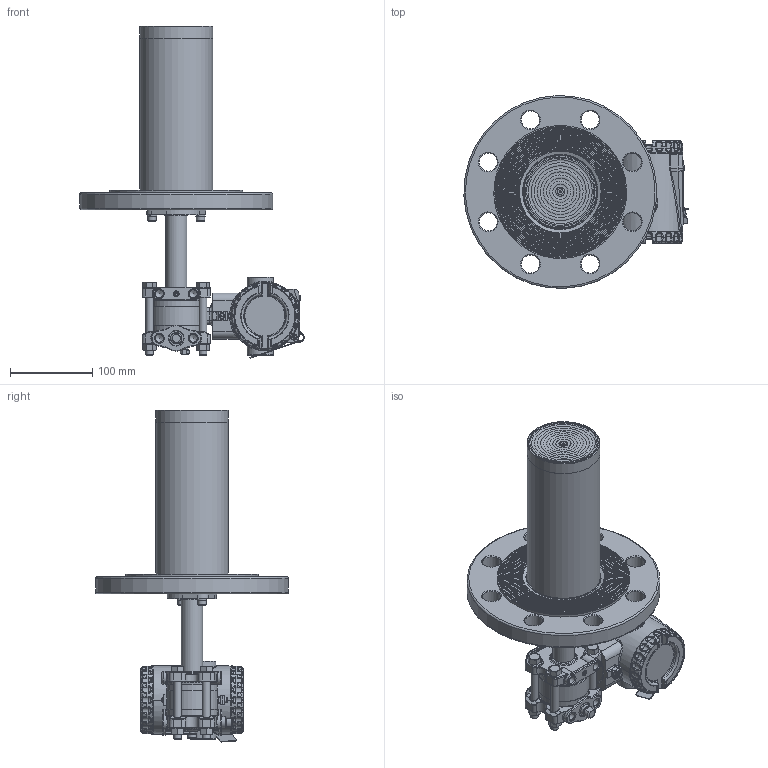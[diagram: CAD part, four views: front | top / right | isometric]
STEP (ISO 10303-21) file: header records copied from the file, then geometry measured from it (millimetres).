
FILE_DESCRIPTION(/* description */ (''),/* implementation_level */ '2;1');
FILE_NAME(/* name */ 'F:\Area\Desenvolvimento_2\Projects\Sensor\projetos\LD400-3d\dimensionais 3D clientes\LD400L\LD400L DN100 PN40 RF ext 200 ref 1-4NPT purga acima.stp',/* time_stamp */ '2023-02-23T17:59:51-03:00',/* author */ ('inventor02'),/* organization */ (''),/* preprocessor_version */ 'ST-DEVELOPER v17',/* originating_system */ 'Autodesk Inventor 2019',/* authorisation */ '');
FILE_SCHEMA (('CONFIG_CONTROL_DESIGN'));
Products named in the file (41): LD30XL DN100 PN40 RF ext 200 ref 1-4NPT purga acima; 204-0301-L-DN100 PN40 RF ext 200 purga acima; nivel fx3 com baixa diferencial 1-4NPT purga acima; involucro fx0-3 apos a usinagem final; flange diferencial std purga; 101-C-7484-01 flange selo nivel VR; 201-A-0504-tubo união teste 1; bujao 1-4NPT; Sangria; Porca 3-8 x 16 UNC; Paraf. 3-8 x 16 UNC; adaptação tubo x flanges 1-1-2 a 4pol; 101-B-0161-anel cortado do tubo - teste1; 101-B-0162-flange fixação tubo; ANSI B18.3.1M - M6x1 x 16; DIN 127 - A 6; flange DN100 PN40 ext 200; 096-B-0212-15; 101-B-7702-02 ext 4-200; 101-C-0143-09; Carcaça 400 com tampas e plaqueta sem letras; 101-D-0845-05 carcaça LD400 sem letras; 101-B-3614-03-tampa 400 sem letras; Tampa visor 400 montada sem letras; 101-B-3612-05 tampa visor 400 sem letras; 101-A-6107; oring 2034; 00034775-0; WHW_250; DIN 915 - M6 x 10; Chapa aterramento externo; 201-A-1771-02 inserto terra recartilhado; AS 1969 - ST4,2; ISO 1207 - M4 x 8; ANSI B18.3.1M - M4x0,7 x 8; Subconjunto plaqueta 400; plaqueta 400 em branco; Parafuso da Plaqueta; Rebite da Plaqueta; 096-A-0169-03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
Assembly tree (50 placements, depth 4):
  LD30XL DN100 PN40 RF ext 200 ref 1-4NPT purga acima
    204-0301-L-DN100 PN40 RF ext 200 purga acima
      nivel fx3 com baixa diferencial 1-4NPT purga acima
        involucro fx0-3 apos a usinagem final
        flange diferencial std purga
        101-C-7484-01 flange selo nivel VR
        201-A-0504-tubo união teste 1
        DIN 915 - M6 x 10
        bujao 1-4NPT
        Sangria
        Porca 3-8 x 16 UNC  x4
        Paraf. 3-8 x 16 UNC  x4
      adaptação tubo x flanges 1-1-2 a 4pol
        101-B-0161-anel cortado do tubo - teste1
        101-B-0162-flange fixação tubo
        ANSI B18.3.1M - M6x1 x 16  x2
        DIN 127 - A 6  x2
      flange DN100 PN40 ext 200
        096-B-0212-15
        101-B-7702-02 ext 4-200
        101-C-0143-09
    Carcaça 400 com tampas e plaqueta sem letras
      101-D-0845-05 carcaça LD400 sem letras
      101-B-3614-03-tampa 400 sem letras
      Tampa visor 400 montada sem letras
        101-B-3612-05 tampa visor 400 sem letras
        101-A-6107
        oring 2034
        00034775-0
        WHW_250
      DIN 915 - M6 x 10
      Chapa aterramento externo
      201-A-1771-02 inserto terra recartilhado
      AS 1969 - ST4,2
      ISO 1207 - M4 x 8
      ANSI B18.3.1M - M4x0,7 x 8  x2
      Subconjunto plaqueta 400
        plaqueta 400 em branco
        Parafuso da Plaqueta
        Rebite da Plaqueta
        096-A-0169-03
        101-A-0502-01
Bounding box: 273.14 x 234.78 x 404.42 mm (x, y, z)
Volume: 1876678.4 mm3; surface area: 485812.6 mm2
Topology: 43 solids, 43 shells, 2837 faces, 6840 edges, 4116 vertices
Faces by surface type: plane 753, cylinder 668, bspline 604, torus 506, cone 230, sphere 76
Full cylindrical faces by diameter (mm): 2 x4, 2.1 x1, 2.2 x1, 2.459 x3, 2.5 x1, 2.7 x1, 2.8 x1, 3 x4, 3.242 x3, 3.5 x1, 3.571 x1, 4 x5, 4.3 x2, 4.4 x1, 4.917 x4, 5 x1, 5.5 x3, 6 x6, 6.1 x2, 6.2 x1, 6.647 x1, 7 x5, 7.6 x2, 7.798 x4, 8 x1, 9.525 x4, 9.728 x6, 10 x2, 10.5 x8, 10.719 x2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
Entity records: 100492 total; most frequent: CARTESIAN_POINT 37355, DIRECTION 13086, ORIENTED_EDGE 12920, EDGE_CURVE 6460, AXIS2_PLACEMENT_3D 5626, VERTEX_POINT 3922, CIRCLE 3276, EDGE_LOOP 2912
